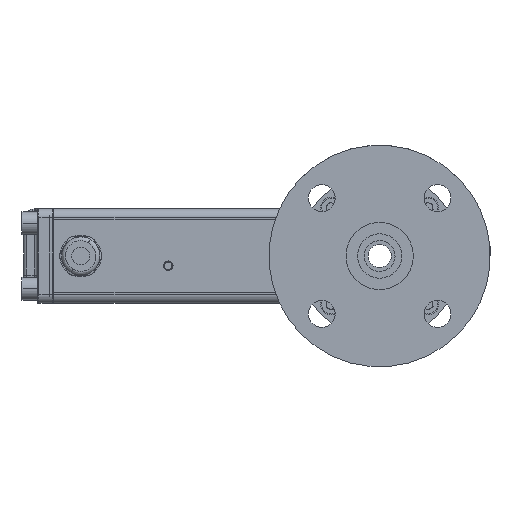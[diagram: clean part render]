
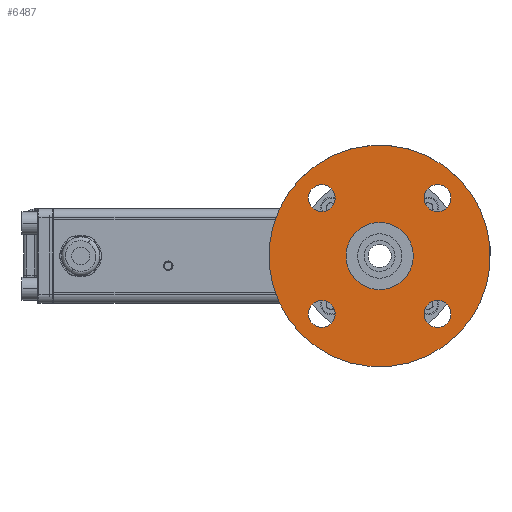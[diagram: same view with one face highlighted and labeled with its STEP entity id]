
A CAD part, left-side view. The second image highlights one B-rep face of the part: STEP entity #6487.
In plain terms, the highlighted planar face has unit normal (-1, 0, 0).
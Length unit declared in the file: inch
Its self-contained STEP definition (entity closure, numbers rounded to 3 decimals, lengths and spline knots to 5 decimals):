
#410 = CARTESIAN_POINT ( 'NONE',  ( -6.57874, 0.20071, 1.18299 ) ) ;
#701 = CARTESIAN_POINT ( 'NONE',  ( -6.57874, 0.20071, 1.18299 ) ) ;
#767 = ORIENTED_EDGE ( 'NONE', *, *, #7728, .T. ) ;
#857 = CARTESIAN_POINT ( 'NONE',  ( -6.57874, 0.39558, -1.37819 ) ) ;
#878 = EDGE_CURVE ( 'NONE', #1449, #31041, #17645, .T. ) ;
#1449 = VERTEX_POINT ( 'NONE', #7658 ) ;
#2292 = AXIS2_PLACEMENT_3D ( 'NONE', #26583, #6300, #16762 ) ;
#2384 = FACE_BOUND ( 'NONE', #22806, .T. ) ;
#2846 = AXIS2_PLACEMENT_3D ( 'NONE', #701, #26816, #18877 ) ;
#2897 = FACE_BOUND ( 'NONE', #11986, .T. ) ;
#3241 = VERTEX_POINT ( 'NONE', #26690 ) ;
#3351 = EDGE_CURVE ( 'NONE', #17667, #9219, #31308, .T. ) ;
#3497 = DIRECTION ( 'NONE',  ( 0., 0.707, -0.707 ) ) ;
#3772 = CARTESIAN_POINT ( 'NONE',  ( -6.57874, 0.89807, 0.48562 ) ) ;
#3914 = ORIENTED_EDGE ( 'NONE', *, *, #26988, .T. ) ;
#4308 = CARTESIAN_POINT ( 'NONE',  ( -6.57874, 0.20071, -1.18332 ) ) ;
#4412 = CARTESIAN_POINT ( 'NONE',  ( -6.57874, 2.56701, -1.18332 ) ) ;
#4654 = EDGE_CURVE ( 'NONE', #20925, #3241, #17527, .T. ) ;
#4665 = DIRECTION ( 'NONE',  ( 1., 0., 0. ) ) ;
#4812 = DIRECTION ( 'NONE',  ( 1., 0., 0. ) ) ;
#5493 = CARTESIAN_POINT ( 'NONE',  ( -6.57874, 1.38386, -0.00016 ) ) ;
#5539 = EDGE_CURVE ( 'NONE', #16224, #13635, #16969, .T. ) ;
#5826 = ORIENTED_EDGE ( 'NONE', *, *, #30292, .T. ) ;
#6212 = EDGE_CURVE ( 'NONE', #31041, #1449, #20872, .T. ) ;
#6245 = VERTEX_POINT ( 'NONE', #16042 ) ;
#6300 = DIRECTION ( 'NONE',  ( 1., 0., 0. ) ) ;
#6485 = ORIENTED_EDGE ( 'NONE', *, *, #3351, .T. ) ;
#6487 = ADVANCED_FACE ( 'NONE', ( #7715, #24045, #18507, #28497, #2897, #2384 ), #7886, .F. ) ;
#6802 = DIRECTION ( 'NONE',  ( 1., 0., 0. ) ) ;
#7031 = EDGE_CURVE ( 'NONE', #27475, #27303, #17107, .T. ) ;
#7279 = CIRCLE ( 'NONE', #32517, 0.27559 ) ;
#7355 = AXIS2_PLACEMENT_3D ( 'NONE', #30618, #4665, #17381 ) ;
#7658 = CARTESIAN_POINT ( 'NONE',  ( -6.57874, 0.00583, 1.37786 ) ) ;
#7715 = FACE_BOUND ( 'NONE', #25357, .T. ) ;
#7728 = EDGE_CURVE ( 'NONE', #27303, #27475, #7279, .T. ) ;
#7886 = PLANE ( 'NONE',  #25864 ) ;
#8317 = DIRECTION ( 'NONE',  ( 1., 0., 0. ) ) ;
#9173 = ORIENTED_EDGE ( 'NONE', *, *, #878, .T. ) ;
#9219 = VERTEX_POINT ( 'NONE', #3772 ) ;
#9699 = DIRECTION ( 'NONE',  ( 0., 0.707, -0.707 ) ) ;
#11215 = CIRCLE ( 'NONE', #33138, 2.26378 ) ;
#11429 = CARTESIAN_POINT ( 'NONE',  ( -6.57874, 1.86965, -0.48595 ) ) ;
#11986 = EDGE_LOOP ( 'NONE', ( #9173, #25004 ) ) ;
#12276 = CARTESIAN_POINT ( 'NONE',  ( -6.57874, 0.39558, 0.98811 ) ) ;
#12526 = DIRECTION ( 'NONE',  ( 0., -0.707, 0.707 ) ) ;
#13132 = AXIS2_PLACEMENT_3D ( 'NONE', #4412, #14888, #30362 ) ;
#13635 = VERTEX_POINT ( 'NONE', #18274 ) ;
#13639 = DIRECTION ( 'NONE',  ( 0., 0.707, -0.707 ) ) ;
#13738 = DIRECTION ( 'NONE',  ( 1., 0., 0. ) ) ;
#14055 = VERTEX_POINT ( 'NONE', #23238 ) ;
#14268 = AXIS2_PLACEMENT_3D ( 'NONE', #32838, #22042, #32168 ) ;
#14888 = DIRECTION ( 'NONE',  ( 1., 0., 0. ) ) ;
#15114 = DIRECTION ( 'NONE',  ( 0., 0.707, -0.707 ) ) ;
#15352 = AXIS2_PLACEMENT_3D ( 'NONE', #16536, #17029, #12526 ) ;
#15364 = EDGE_CURVE ( 'NONE', #14055, #6245, #11215, .T. ) ;
#15431 = DIRECTION ( 'NONE',  ( 0., 0.707, -0.707 ) ) ;
#16042 = CARTESIAN_POINT ( 'NONE',  ( -6.57874, -0.21688, 1.60057 ) ) ;
#16224 = VERTEX_POINT ( 'NONE', #28089 ) ;
#16366 = DIRECTION ( 'NONE',  ( 0., -0.707, 0.707 ) ) ;
#16536 = CARTESIAN_POINT ( 'NONE',  ( -6.57874, 1.38386, -0.00016 ) ) ;
#16762 = DIRECTION ( 'NONE',  ( 0., 0.707, -0.707 ) ) ;
#16969 = CIRCLE ( 'NONE', #13132, 0.27559 ) ;
#17029 = DIRECTION ( 'NONE',  ( 1., 0., 0. ) ) ;
#17107 = CIRCLE ( 'NONE', #2292, 0.27559 ) ;
#17171 = CARTESIAN_POINT ( 'NONE',  ( -6.57874, 1.38386, -0.00016 ) ) ;
#17381 = DIRECTION ( 'NONE',  ( 0., 0.707, -0.707 ) ) ;
#17446 = AXIS2_PLACEMENT_3D ( 'NONE', #5493, #13738, #24226 ) ;
#17453 = ORIENTED_EDGE ( 'NONE', *, *, #15364, .F. ) ;
#17527 = CIRCLE ( 'NONE', #14268, 0.27559 ) ;
#17592 = AXIS2_PLACEMENT_3D ( 'NONE', #24458, #27533, #16366 ) ;
#17596 = CARTESIAN_POINT ( 'NONE',  ( -6.57874, 2.76188, 0.98811 ) ) ;
#17645 = CIRCLE ( 'NONE', #2846, 0.27559 ) ;
#17667 = VERTEX_POINT ( 'NONE', #11429 ) ;
#18274 = CARTESIAN_POINT ( 'NONE',  ( -6.57874, 2.76188, -1.37819 ) ) ;
#18507 = FACE_BOUND ( 'NONE', #19196, .T. ) ;
#18686 = AXIS2_PLACEMENT_3D ( 'NONE', #410, #8317, #13639 ) ;
#18877 = DIRECTION ( 'NONE',  ( 0., 0.707, -0.707 ) ) ;
#19196 = EDGE_LOOP ( 'NONE', ( #22410, #29460 ) ) ;
#20872 = CIRCLE ( 'NONE', #18686, 0.27559 ) ;
#20925 = VERTEX_POINT ( 'NONE', #17596 ) ;
#21267 = DIRECTION ( 'NONE',  ( 1., 0., 0. ) ) ;
#21563 = EDGE_LOOP ( 'NONE', ( #29329, #17453 ) ) ;
#21801 = AXIS2_PLACEMENT_3D ( 'NONE', #25512, #6802, #9699 ) ;
#22042 = DIRECTION ( 'NONE',  ( 1., 0., 0. ) ) ;
#22410 = ORIENTED_EDGE ( 'NONE', *, *, #5539, .T. ) ;
#22806 = EDGE_LOOP ( 'NONE', ( #3914, #29486 ) ) ;
#23238 = CARTESIAN_POINT ( 'NONE',  ( -6.57874, 2.98459, -1.6009 ) ) ;
#23346 = CARTESIAN_POINT ( 'NONE',  ( -6.57874, 1.38386, -0.00016 ) ) ;
#23723 = EDGE_CURVE ( 'NONE', #13635, #16224, #31500, .T. ) ;
#24045 = FACE_OUTER_BOUND ( 'NONE', #21563, .T. ) ;
#24226 = DIRECTION ( 'NONE',  ( 0., 0.707, -0.707 ) ) ;
#24458 = CARTESIAN_POINT ( 'NONE',  ( -6.57874, 1.38386, -0.00016 ) ) ;
#25004 = ORIENTED_EDGE ( 'NONE', *, *, #6212, .T. ) ;
#25357 = EDGE_LOOP ( 'NONE', ( #5826, #6485 ) ) ;
#25512 = CARTESIAN_POINT ( 'NONE',  ( -6.57874, 2.56701, 1.18299 ) ) ;
#25864 = AXIS2_PLACEMENT_3D ( 'NONE', #23346, #21267, #15431 ) ;
#26583 = CARTESIAN_POINT ( 'NONE',  ( -6.57874, 0.20071, -1.18332 ) ) ;
#26690 = CARTESIAN_POINT ( 'NONE',  ( -6.57874, 2.37214, 1.37786 ) ) ;
#26816 = DIRECTION ( 'NONE',  ( 1., 0., 0. ) ) ;
#26882 = CARTESIAN_POINT ( 'NONE',  ( -6.57874, 0.00583, -0.98844 ) ) ;
#26988 = EDGE_CURVE ( 'NONE', #3241, #20925, #32251, .T. ) ;
#27048 = DIRECTION ( 'NONE',  ( 1., 0., 0. ) ) ;
#27303 = VERTEX_POINT ( 'NONE', #26882 ) ;
#27475 = VERTEX_POINT ( 'NONE', #857 ) ;
#27478 = EDGE_CURVE ( 'NONE', #6245, #14055, #32278, .T. ) ;
#27533 = DIRECTION ( 'NONE',  ( 1., 0., 0. ) ) ;
#27585 = EDGE_LOOP ( 'NONE', ( #767, #28572 ) ) ;
#28089 = CARTESIAN_POINT ( 'NONE',  ( -6.57874, 2.37214, -0.98844 ) ) ;
#28497 = FACE_BOUND ( 'NONE', #27585, .T. ) ;
#28572 = ORIENTED_EDGE ( 'NONE', *, *, #7031, .T. ) ;
#29329 = ORIENTED_EDGE ( 'NONE', *, *, #27478, .F. ) ;
#29460 = ORIENTED_EDGE ( 'NONE', *, *, #23723, .T. ) ;
#29486 = ORIENTED_EDGE ( 'NONE', *, *, #4654, .T. ) ;
#30292 = EDGE_CURVE ( 'NONE', #9219, #17667, #31274, .T. ) ;
#30362 = DIRECTION ( 'NONE',  ( 0., 0.707, -0.707 ) ) ;
#30618 = CARTESIAN_POINT ( 'NONE',  ( -6.57874, 2.56701, -1.18332 ) ) ;
#31041 = VERTEX_POINT ( 'NONE', #12276 ) ;
#31274 = CIRCLE ( 'NONE', #15352, 0.68701 ) ;
#31308 = CIRCLE ( 'NONE', #17592, 0.68701 ) ;
#31500 = CIRCLE ( 'NONE', #7355, 0.27559 ) ;
#32168 = DIRECTION ( 'NONE',  ( 0., 0.707, -0.707 ) ) ;
#32251 = CIRCLE ( 'NONE', #21801, 0.27559 ) ;
#32278 = CIRCLE ( 'NONE', #17446, 2.26378 ) ;
#32517 = AXIS2_PLACEMENT_3D ( 'NONE', #4308, #4812, #15114 ) ;
#32838 = CARTESIAN_POINT ( 'NONE',  ( -6.57874, 2.56701, 1.18299 ) ) ;
#33138 = AXIS2_PLACEMENT_3D ( 'NONE', #17171, #27048, #3497 ) ;
